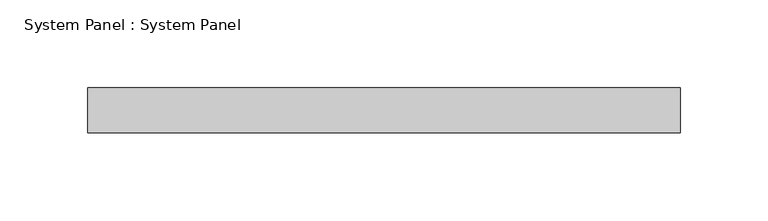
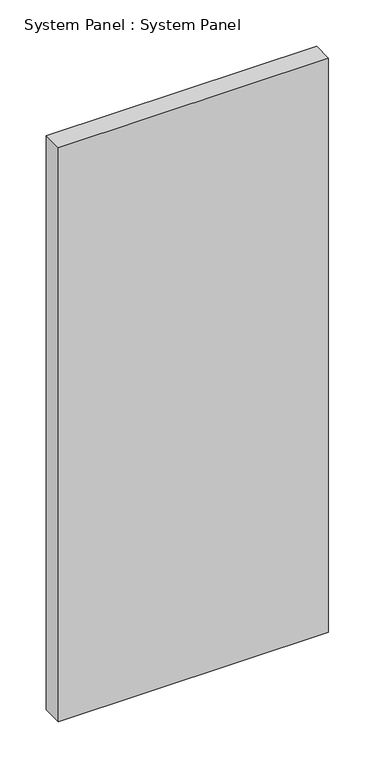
"""IFC4 building model written with IfcOpenShell, lengths in millimetres: plate geometry, System Panel : System Panel."""

from ifc_helpers import new_model, si_unit, origin, origin_with_axes, place, context, project, spatial, polyline, outline, extrude, source, transform, mapped, element, save


def system_panel_system_panel_9512511a(model_context):
    return source(origin(), model_context, "Body", "SweptSolid", [
        extrude(outline(polyline([(168.275, 19.05), (-168.275, 19.05), (-168.275, 44.45), (168.275, 44.45), (168.275, 19.05)])), origin_with_axes(), (0.0, 0.0, 1.0), 755.65),
    ])


if __name__ == "__main__":
    model = new_model("IFC4")
    model_context = context("Model", 3, world=origin())
    ifc_project = project(units=[si_unit("LENGTHUNIT", "METRE", prefix="MILLI")], contexts=[model_context])
    site = spatial("IfcSite", under=ifc_project)
    building = spatial("IfcBuilding", under=site)
    placement = place(None, origin())
    system_panel_system_panel_shape = system_panel_system_panel_9512511a(model_context)
    element("IfcPlate", 1, ObjectType="System Panel : System Panel", at=placement, inside=building, context=model_context, shape_type="MappedRepresentation", body=[
        mapped(system_panel_system_panel_shape, transform((0.0, 0.0, 0.0), x_axis=(1.0, 0.0, 0.0), y_axis=(0.0, 1.0, 0.0), z_axis=(0.0, 0.0, 1.0))),
    ])
    save(model, "model.ifc")
